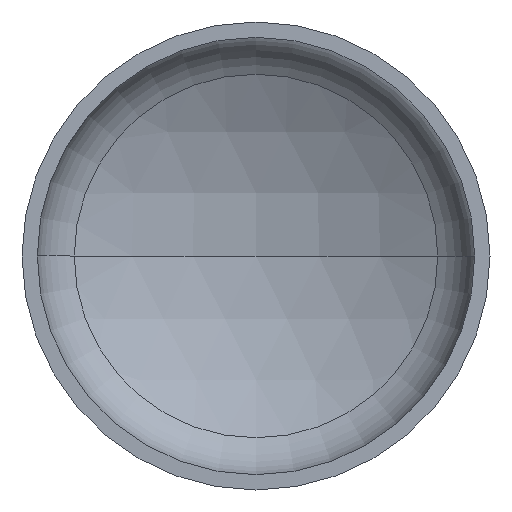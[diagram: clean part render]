
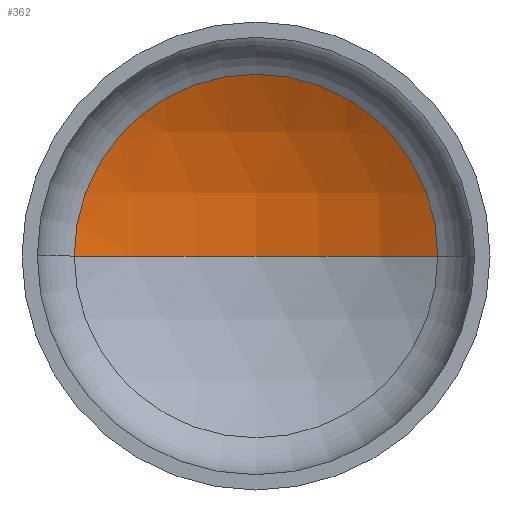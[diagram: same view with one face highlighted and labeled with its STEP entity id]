
A CAD part, front view. The second image highlights one B-rep face of the part: STEP entity #362.
In plain terms, the highlighted spherical face has radius 1200 mm.
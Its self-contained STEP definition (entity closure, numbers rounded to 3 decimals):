
#3 = EDGE_LOOP ( 'NONE', ( #87, #34, #28 ) ) ;
#7 = DIRECTION ( 'NONE',  ( 1., 0., 0. ) ) ;
#16 = DIRECTION ( 'NONE',  ( 0., 0., -1. ) ) ;
#21 = CARTESIAN_POINT ( 'NONE',  ( 0., -697.973, 0. ) ) ;
#28 = ORIENTED_EDGE ( 'NONE', *, *, #114, .T. ) ;
#34 = ORIENTED_EDGE ( 'NONE', *, *, #116, .T. ) ;
#37 = AXIS2_PLACEMENT_3D ( 'NONE', #233, #256, #403 ) ;
#41 = AXIS2_PLACEMENT_3D ( 'NONE', #21, #16, #178 ) ;
#44 = AXIS2_PLACEMENT_3D ( 'NONE', #324, #182, #7 ) ;
#57 = CARTESIAN_POINT ( 'NONE',  ( -582.68, 351.066, 0. ) ) ;
#87 = ORIENTED_EDGE ( 'NONE', *, *, #122, .F. ) ;
#94 = VERTEX_POINT ( 'NONE', #222 ) ;
#107 = AXIS2_PLACEMENT_3D ( 'NONE', #194, #204, #161 ) ;
#114 = EDGE_CURVE ( 'NONE', #141, #260, #210, .T. ) ;
#116 = EDGE_CURVE ( 'NONE', #94, #141, #144, .T. ) ;
#122 = EDGE_CURVE ( 'NONE', #94, #260, #125, .T. ) ;
#125 = CIRCLE ( 'NONE', #37, 1200. ) ;
#141 = VERTEX_POINT ( 'NONE', #203 ) ;
#144 = CIRCLE ( 'NONE', #41, 1200. ) ;
#158 = SPHERICAL_SURFACE ( 'NONE', #107, 1200. ) ;
#161 = DIRECTION ( 'NONE',  ( -1., 0., 0. ) ) ;
#165 = FACE_OUTER_BOUND ( 'NONE', #3, .T. ) ;
#178 = DIRECTION ( 'NONE',  ( -1., 0., 0. ) ) ;
#182 = DIRECTION ( 'NONE',  ( 0., -1., 0. ) ) ;
#194 = CARTESIAN_POINT ( 'NONE',  ( 0., -697.973, 0. ) ) ;
#203 = CARTESIAN_POINT ( 'NONE',  ( 582.68, 351.066, 0. ) ) ;
#204 = DIRECTION ( 'NONE',  ( 0., 0., -1. ) ) ;
#210 = CIRCLE ( 'NONE', #44, 582.68 ) ;
#222 = CARTESIAN_POINT ( 'NONE',  ( 0., 502.027, 0. ) ) ;
#233 = CARTESIAN_POINT ( 'NONE',  ( 0., -697.973, 0. ) ) ;
#256 = DIRECTION ( 'NONE',  ( 0., 0., 1. ) ) ;
#260 = VERTEX_POINT ( 'NONE', #57 ) ;
#324 = CARTESIAN_POINT ( 'NONE',  ( 0., 351.066, 0. ) ) ;
#362 = ADVANCED_FACE ( 'NONE', ( #165 ), #158, .F. ) ;
#403 = DIRECTION ( 'NONE',  ( 1., 0., 0. ) ) ;
